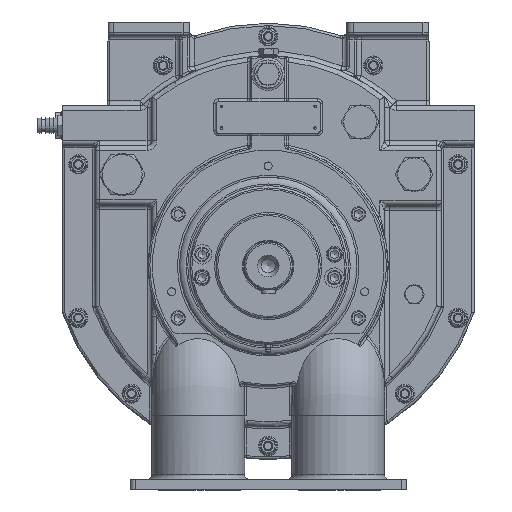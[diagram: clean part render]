
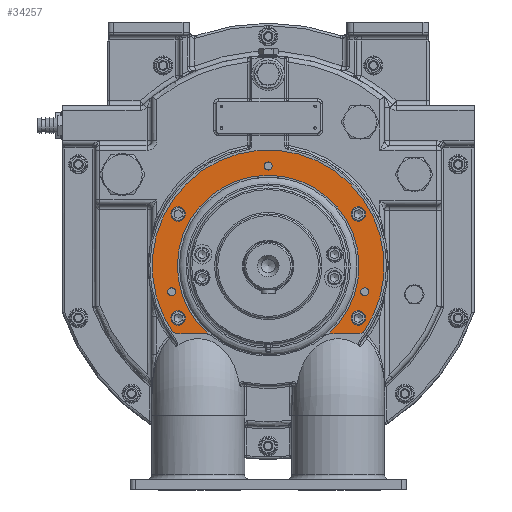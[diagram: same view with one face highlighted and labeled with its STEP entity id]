
A CAD part, left-side view. The second image highlights one B-rep face of the part: STEP entity #34257.
In plain terms, the highlighted planar face has unit normal (-1, 0, 0).
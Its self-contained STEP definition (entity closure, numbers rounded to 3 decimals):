
#1523=FACE_BOUND('',#6192,.T.);
#1524=FACE_BOUND('',#6193,.T.);
#1525=FACE_BOUND('',#6194,.T.);
#1526=FACE_BOUND('',#6195,.T.);
#1527=FACE_BOUND('',#6196,.T.);
#1528=FACE_BOUND('',#6197,.T.);
#1529=FACE_BOUND('',#6198,.T.);
#2155=PLANE('',#37734);
#3929=FACE_OUTER_BOUND('',#6191,.T.);
#6191=EDGE_LOOP('',(#27772,#27773,#27774,#27775,#27776,#27777,#27778,#27779));
#6192=EDGE_LOOP('',(#27780));
#6193=EDGE_LOOP('',(#27781));
#6194=EDGE_LOOP('',(#27782));
#6195=EDGE_LOOP('',(#27783));
#6196=EDGE_LOOP('',(#27784));
#6197=EDGE_LOOP('',(#27785));
#6198=EDGE_LOOP('',(#27786));
#8549=CIRCLE('',#37300,20.);
#8551=CIRCLE('',#37304,6.);
#8671=CIRCLE('',#37558,9.);
#8676=CIRCLE('',#37573,9.);
#8681=CIRCLE('',#37588,9.);
#8686=CIRCLE('',#37603,9.);
#8747=CIRCLE('',#37735,6.);
#8748=CIRCLE('',#37736,20.);
#8749=CIRCLE('',#37737,145.);
#8750=CIRCLE('',#37738,113.5);
#8751=CIRCLE('',#37739,5.053);
#8752=CIRCLE('',#37740,5.053);
#8753=CIRCLE('',#37741,5.053);
#10310=LINE('',#63355,#12073);
#10542=LINE('',#65345,#12305);
#12073=VECTOR('',#44849,10.);
#12305=VECTOR('',#45949,10.);
#14584=VERTEX_POINT('',#63347);
#14585=VERTEX_POINT('',#63349);
#14586=VERTEX_POINT('',#63353);
#14589=VERTEX_POINT('',#63361);
#14808=VERTEX_POINT('',#64625);
#14826=VERTEX_POINT('',#64693);
#14844=VERTEX_POINT('',#64761);
#14862=VERTEX_POINT('',#64829);
#14978=VERTEX_POINT('',#65341);
#14979=VERTEX_POINT('',#65342);
#14980=VERTEX_POINT('',#65344);
#14981=VERTEX_POINT('',#65346);
#14982=VERTEX_POINT('',#65350);
#14983=VERTEX_POINT('',#65352);
#14984=VERTEX_POINT('',#65354);
#18769=EDGE_CURVE('',#14584,#14585,#8549,.T.);
#18772=EDGE_CURVE('',#14586,#14584,#10310,.T.);
#18776=EDGE_CURVE('',#14589,#14586,#8551,.T.);
#19107=EDGE_CURVE('',#14808,#14808,#8671,.T.);
#19133=EDGE_CURVE('',#14826,#14826,#8676,.T.);
#19159=EDGE_CURVE('',#14844,#14844,#8681,.T.);
#19185=EDGE_CURVE('',#14862,#14862,#8686,.T.);
#19359=EDGE_CURVE('',#14978,#14979,#8747,.T.);
#19360=EDGE_CURVE('',#14980,#14978,#10542,.T.);
#19361=EDGE_CURVE('',#14981,#14980,#8748,.T.);
#19362=EDGE_CURVE('',#14585,#14981,#8749,.T.);
#19363=EDGE_CURVE('',#14979,#14589,#8750,.T.);
#19364=EDGE_CURVE('',#14982,#14982,#8751,.T.);
#19365=EDGE_CURVE('',#14983,#14983,#8752,.T.);
#19366=EDGE_CURVE('',#14984,#14984,#8753,.T.);
#27772=ORIENTED_EDGE('',*,*,#19359,.F.);
#27773=ORIENTED_EDGE('',*,*,#19360,.F.);
#27774=ORIENTED_EDGE('',*,*,#19361,.F.);
#27775=ORIENTED_EDGE('',*,*,#19362,.F.);
#27776=ORIENTED_EDGE('',*,*,#18769,.F.);
#27777=ORIENTED_EDGE('',*,*,#18772,.F.);
#27778=ORIENTED_EDGE('',*,*,#18776,.F.);
#27779=ORIENTED_EDGE('',*,*,#19363,.F.);
#27780=ORIENTED_EDGE('',*,*,#19107,.T.);
#27781=ORIENTED_EDGE('',*,*,#19133,.T.);
#27782=ORIENTED_EDGE('',*,*,#19159,.T.);
#27783=ORIENTED_EDGE('',*,*,#19185,.T.);
#27784=ORIENTED_EDGE('',*,*,#19364,.T.);
#27785=ORIENTED_EDGE('',*,*,#19365,.T.);
#27786=ORIENTED_EDGE('',*,*,#19366,.T.);
#34257=ADVANCED_FACE('',(#3929,#1523,#1524,#1525,#1526,#1527,#1528,#1529),
#2155,.F.);
#37300=AXIS2_PLACEMENT_3D('',#63350,#44843,#44844);
#37304=AXIS2_PLACEMENT_3D('',#63363,#44856,#44857);
#37558=AXIS2_PLACEMENT_3D('',#64626,#45478,#45479);
#37573=AXIS2_PLACEMENT_3D('',#64694,#45522,#45523);
#37588=AXIS2_PLACEMENT_3D('',#64762,#45566,#45567);
#37603=AXIS2_PLACEMENT_3D('',#64830,#45610,#45611);
#37734=AXIS2_PLACEMENT_3D('',#65340,#45945,#45946);
#37735=AXIS2_PLACEMENT_3D('',#65343,#45947,#45948);
#37736=AXIS2_PLACEMENT_3D('',#65347,#45950,#45951);
#37737=AXIS2_PLACEMENT_3D('',#65348,#45952,#45953);
#37738=AXIS2_PLACEMENT_3D('',#65349,#45954,#45955);
#37739=AXIS2_PLACEMENT_3D('',#65351,#45956,#45957);
#37740=AXIS2_PLACEMENT_3D('',#65353,#45958,#45959);
#37741=AXIS2_PLACEMENT_3D('',#65355,#45960,#45961);
#44843=DIRECTION('center_axis',(1.,0.,0.));
#44844=DIRECTION('ref_axis',(0.,0.496,-0.868));
#44849=DIRECTION('',(0.,1.,0.));
#44856=DIRECTION('center_axis',(-1.,0.,0.));
#44857=DIRECTION('ref_axis',(0.,-0.341,0.94));
#45478=DIRECTION('center_axis',(1.,0.,0.));
#45479=DIRECTION('ref_axis',(0.,1.,0.));
#45522=DIRECTION('center_axis',(1.,0.,0.));
#45523=DIRECTION('ref_axis',(0.,1.,0.));
#45566=DIRECTION('center_axis',(1.,0.,0.));
#45567=DIRECTION('ref_axis',(0.,1.,0.));
#45610=DIRECTION('center_axis',(1.,0.,0.));
#45611=DIRECTION('ref_axis',(0.,1.,0.));
#45945=DIRECTION('center_axis',(1.,0.,0.));
#45946=DIRECTION('ref_axis',(0.,-1.,0.));
#45947=DIRECTION('center_axis',(-1.,0.,0.));
#45948=DIRECTION('ref_axis',(0.,0.341,0.94));
#45949=DIRECTION('',(0.,1.,0.));
#45950=DIRECTION('center_axis',(1.,0.,0.));
#45951=DIRECTION('ref_axis',(0.,-0.496,-0.868));
#45952=DIRECTION('center_axis',(1.,0.,0.));
#45953=DIRECTION('ref_axis',(0.,1.,0.));
#45954=DIRECTION('center_axis',(-1.,0.,0.));
#45955=DIRECTION('ref_axis',(0.,-1.,0.));
#45956=DIRECTION('center_axis',(1.,0.,0.));
#45957=DIRECTION('ref_axis',(0.,1.,0.));
#45958=DIRECTION('center_axis',(1.,0.,0.));
#45959=DIRECTION('ref_axis',(0.,1.,0.));
#45960=DIRECTION('center_axis',(1.,0.,0.));
#45961=DIRECTION('ref_axis',(0.,1.,0.));
#63347=CARTESIAN_POINT('',(-327.25,110.268,-116.));
#63349=CARTESIAN_POINT('',(-327.25,118.849,-114.065));
#63350=CARTESIAN_POINT('Origin',(-327.25,110.268,-96.));
#63353=CARTESIAN_POINT('',(-327.25,75.903,-116.));
#63355=CARTESIAN_POINT('',(-327.25,36.849,-116.));
#63361=CARTESIAN_POINT('',(-327.25,75.163,-116.046));
#63363=CARTESIAN_POINT('Origin',(-327.25,75.903,-122.));
#64625=CARTESIAN_POINT('',(-327.25,103.583,-96.));
#64626=CARTESIAN_POINT('Origin',(-327.25,112.583,-96.));
#64693=CARTESIAN_POINT('',(-327.25,103.583,34.));
#64694=CARTESIAN_POINT('Origin',(-327.25,112.583,34.));
#64761=CARTESIAN_POINT('',(-327.25,-121.583,34.));
#64762=CARTESIAN_POINT('Origin',(-327.25,-112.583,34.));
#64829=CARTESIAN_POINT('',(-327.25,-121.583,-96.));
#64830=CARTESIAN_POINT('Origin',(-327.25,-112.583,-96.));
#65340=CARTESIAN_POINT('Origin',(-327.25,0.,
-31.));
#65341=CARTESIAN_POINT('',(-327.25,-75.903,-116.));
#65342=CARTESIAN_POINT('',(-327.25,-75.163,-116.046));
#65343=CARTESIAN_POINT('Origin',(-327.25,-75.903,-122.));
#65344=CARTESIAN_POINT('',(-327.25,-110.268,-116.));
#65345=CARTESIAN_POINT('',(-327.25,-60.578,-116.));
#65346=CARTESIAN_POINT('',(-327.25,-118.849,-114.065));
#65347=CARTESIAN_POINT('Origin',(-327.25,-110.268,-96.));
#65348=CARTESIAN_POINT('Origin',(-327.25,0.,
-31.));
#65349=CARTESIAN_POINT('Origin',(-327.25,0.,
-31.));
#65350=CARTESIAN_POINT('',(-327.25,-5.053,94.));
#65351=CARTESIAN_POINT('Origin',(-327.25,0.,
94.));
#65352=CARTESIAN_POINT('',(-327.25,-125.794,-63.352));
#65353=CARTESIAN_POINT('Origin',(-327.25,-120.741,-63.352));
#65354=CARTESIAN_POINT('',(-327.25,115.688,-63.352));
#65355=CARTESIAN_POINT('Origin',(-327.25,120.741,-63.352));
